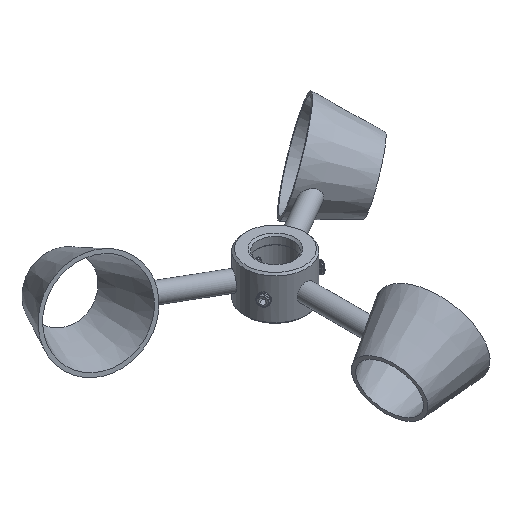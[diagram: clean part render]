
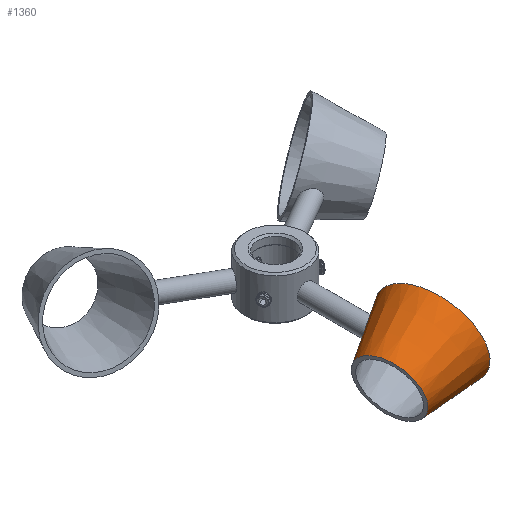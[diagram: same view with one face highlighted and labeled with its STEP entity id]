
A CAD part, isometric view. The second image highlights one B-rep face of the part: STEP entity #1360.
In plain terms, the highlighted conical face has half-angle 15.255 degrees and reference radius 27.073 mm.
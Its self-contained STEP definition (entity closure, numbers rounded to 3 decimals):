
#40 = ORIENTED_EDGE ( 'NONE', *, *, #1591, .F. ) ;
#97 = AXIS2_PLACEMENT_3D ( 'NONE', #1262, #830, #798 ) ;
#117 = DIRECTION ( 'NONE',  ( 0., 1., 0. ) ) ;
#207 = EDGE_LOOP ( 'NONE', ( #871 ) ) ;
#218 = DIRECTION ( 'NONE',  ( 0., 0., 1. ) ) ;
#222 = CARTESIAN_POINT ( 'NONE',  ( 0., 27.073, 0. ) ) ;
#361 = CIRCLE ( 'NONE', #97, 18.073 ) ;
#391 = VERTEX_POINT ( 'NONE', #222 ) ;
#560 = AXIS2_PLACEMENT_3D ( 'NONE', #1162, #1622, #117 ) ;
#653 = CIRCLE ( 'NONE', #560, 27.073 ) ;
#798 = DIRECTION ( 'NONE',  ( 0., 1., 0. ) ) ;
#830 = DIRECTION ( 'NONE',  ( 0., 0., -1. ) ) ;
#840 = DIRECTION ( 'NONE',  ( 0., -1., 0. ) ) ;
#853 = EDGE_LOOP ( 'NONE', ( #40 ) ) ;
#871 = ORIENTED_EDGE ( 'NONE', *, *, #1424, .T. ) ;
#948 = CONICAL_SURFACE ( 'NONE', #1259, 27.073, 0.266 ) ;
#997 = FACE_BOUND ( 'NONE', #853, .T. ) ;
#1126 = CARTESIAN_POINT ( 'NONE',  ( 0., 18.073, -33. ) ) ;
#1151 = VERTEX_POINT ( 'NONE', #1126 ) ;
#1162 = CARTESIAN_POINT ( 'NONE',  ( 0., 0., 0. ) ) ;
#1259 = AXIS2_PLACEMENT_3D ( 'NONE', #1592, #218, #840 ) ;
#1262 = CARTESIAN_POINT ( 'NONE',  ( 0., 0., -33. ) ) ;
#1360 = ADVANCED_FACE ( 'NONE', ( #997, #1613 ), #948, .T. ) ;
#1424 = EDGE_CURVE ( 'NONE', #391, #391, #653, .T. ) ;
#1591 = EDGE_CURVE ( 'NONE', #1151, #1151, #361, .T. ) ;
#1592 = CARTESIAN_POINT ( 'NONE',  ( 0., 0., 0. ) ) ;
#1613 = FACE_OUTER_BOUND ( 'NONE', #207, .T. ) ;
#1622 = DIRECTION ( 'NONE',  ( 0., 0., -1. ) ) ;
